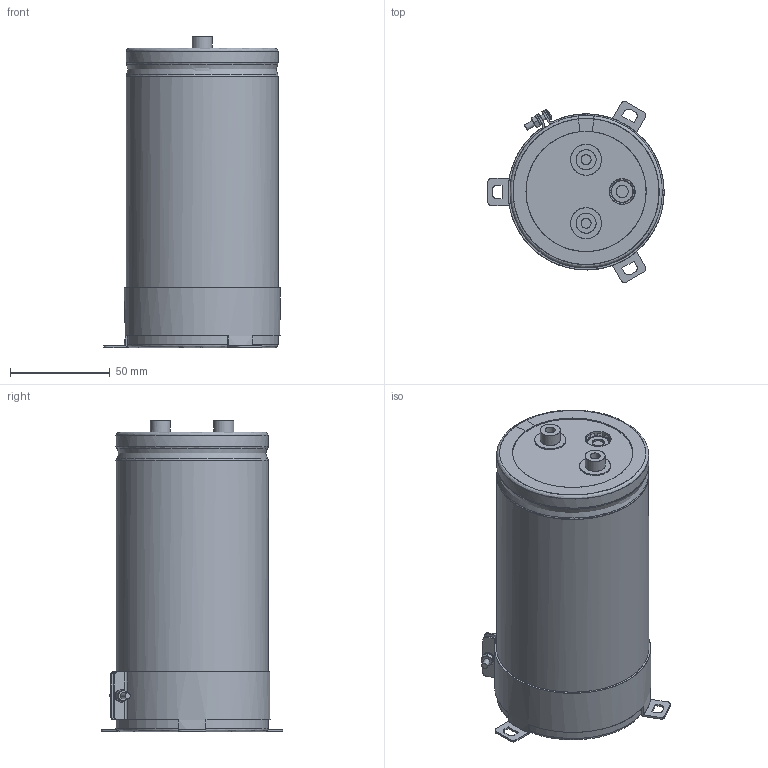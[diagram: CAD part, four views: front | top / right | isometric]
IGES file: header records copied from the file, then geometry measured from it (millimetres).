
Start section: JAMA-IS VERSION  1.0
Bounding box: 88.3 x 90.75 x 156 mm (x, y, z)
Surface area: 137869 mm2 (no closed solid volume)
Topology: 0 solids, 0 shells, 259 faces, 4448 edges, 4417 vertices
Faces by surface type: bspline 259
